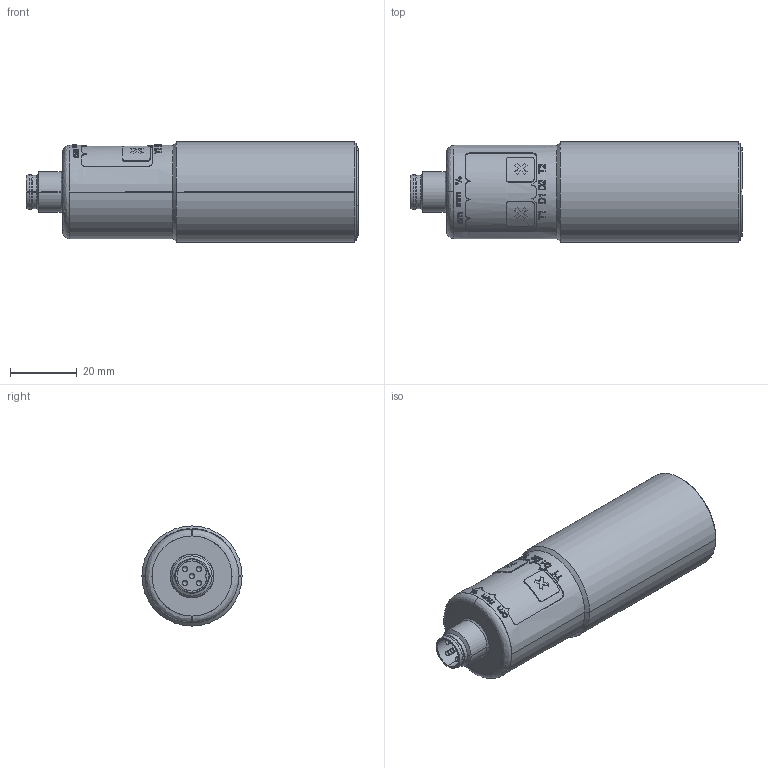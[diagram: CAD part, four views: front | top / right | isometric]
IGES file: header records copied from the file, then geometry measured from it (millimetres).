
Start section: SolidWorks IGES file using analytic representation for surfaces
Global section: file name: J:\Projekte\Kunststoff-Blechteile\Zeichnungen\Bibliothek Inventor\3D Solids\crm+\IGS\crm+25_XX_TC.igs; native system: SolidWorks 2020; preprocessor: SolidWorks 2020; author: Oliver Liedtke; date: 200514.111402; units: millimetre
Bounding box: 99.5 x 30 x 30 mm (x, y, z)
Surface area: 10242.5 mm2 (no closed solid volume)
Topology: 0 solids, 0 shells, 314 faces, 2763 edges, 2753 vertices
Faces by surface type: bspline 243, revolution 71
